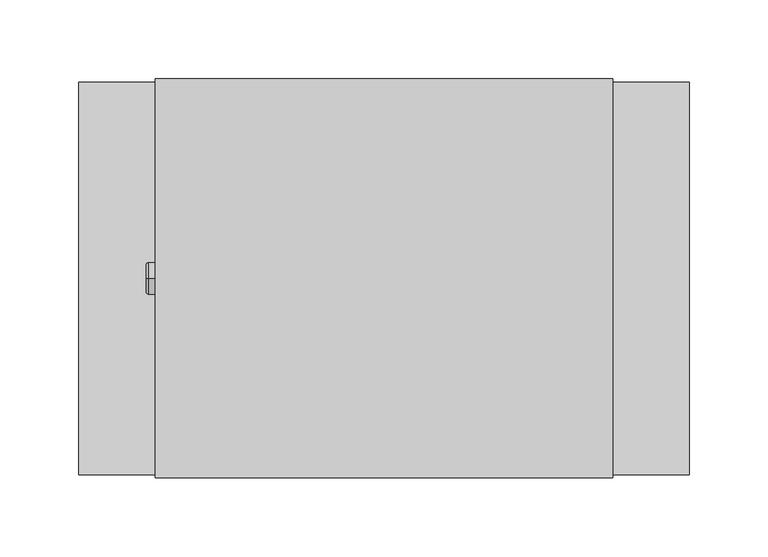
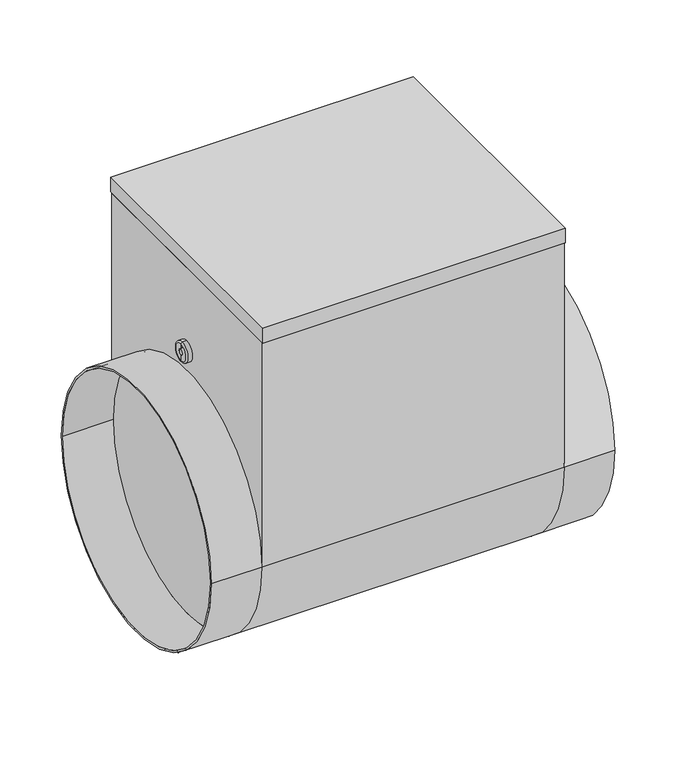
"""IFC4 building model written with IfcOpenShell, lengths in millimetres: proxy geometry, СВ_ВоздухонагревательЭлектрический_КанальныйКруглый_DN100-315_SKH-E : SKH-E-250/9."""

from ifc_helpers import new_model, si_unit, point, frame, origin, place, context, project, spatial, polyline, circle_curve, ellipse_curve, trimmed, outline, extrude, source, transform, mapped, element, save
from ifc_brep_helpers import plane_surface, cylinder_surface, revolved_surface, advanced_brep


def mechanical_equipment_79761c90(model_context):
    return source(origin(), model_context, "Body", "SolidModel", [
        extrude(outline(polyline([(145.0, -126.5), (-145.0, -126.5), (-145.0, 126.5), (145.0, 126.5), (145.0, -126.5)])), frame((0.0, 0.0, 228.5), z_axis=(0.0, 0.0, 1.0), x_axis=(1.0, 0.0, 0.0)), (0.0, 0.0, 1.0), 15.0),
        advanced_brep(
        [(-193.5, -124.5, 0.0), (-193.5, 124.5, 0.0), (-193.5, -122.5, 0.0), (-193.5, 122.5, 0.0), (-145.0, 122.5, 0.0), (-145.0, -122.5, 0.0), (-145.0, 124.5, 0.0), (-145.0, -124.5, 0.0), (145.0, -122.5, 0.0), (145.0, 122.5, 0.0), (145.0, -124.5, 228.5), (145.0, -124.5, 0.0), (145.0, 124.5, 0.0), (145.0, 124.5, 228.5), (-145.0, -124.5, 228.5), (-145.0, 124.5, 228.5), (193.5, -124.5, 0.0), (193.5, 124.5, 0.0), (193.5, -122.5, 0.0), (193.5, 122.5, 0.0)],
        [
            (0, 1, circle_curve(frame((-193.5, 0.0, 0.0), z_axis=(-1.0, 0.0, 0.0), x_axis=(0.0, 1.0, 0.0)), 124.5)),
            (1, 0, circle_curve(frame((-193.5, 0.0, 0.0), z_axis=(-1.0, 0.0, 0.0), x_axis=(0.0, 1.0, 0.0)), 124.5)),
            (2, 3, circle_curve(frame((-193.5, 0.0, 0.0), z_axis=(1.0, 0.0, 0.0), x_axis=(0.0, 1.0, 0.0)), 122.5)),
            (3, 2, circle_curve(frame((-193.5, 0.0, 0.0), z_axis=(1.0, 0.0, 0.0), x_axis=(0.0, 1.0, 0.0)), 122.5)),
            (3, 4),
            (4, 5, circle_curve(frame((-145.0, 0.0, 0.0), z_axis=(1.0, 0.0, 0.0), x_axis=(0.0, 1.0, 0.0)), 122.5)),
            (5, 2),
            (5, 4, circle_curve(frame((-145.0, 0.0, 0.0), z_axis=(1.0, 0.0, 0.0), x_axis=(0.0, 1.0, 0.0)), 122.5)),
            (1, 6),
            (6, 7, circle_curve(frame((-145.0, 0.0, 0.0), z_axis=(-1.0, 0.0, 0.0), x_axis=(0.0, 1.0, 0.0)), 124.5)),
            (7, 0),
            (7, 6, circle_curve(frame((-145.0, 0.0, 0.0), z_axis=(-1.0, 0.0, 0.0), x_axis=(0.0, 1.0, 0.0)), 124.5)),
            (8, 9, circle_curve(frame((145.0, 0.0, 0.0), z_axis=(1.0, 0.0, 0.0), x_axis=(0.0, 1.0, 0.0)), 122.5)),
            (9, 8, circle_curve(frame((145.0, 0.0, 0.0), z_axis=(1.0, 0.0, 0.0), x_axis=(0.0, 1.0, 0.0)), 122.5)),
            (10, 11),
            (11, 12, circle_curve(frame((145.0, 0.0, 0.0), z_axis=(-1.0, 0.0, 0.0), x_axis=(0.0, 1.0, 0.0)), 124.5)),
            (12, 13),
            (13, 10),
            (7, 14),
            (14, 15),
            (15, 6),
            (6, 12),
            (12, 11, circle_curve(frame((145.0, 0.0, 0.0), z_axis=(-1.0, 0.0, 0.0), x_axis=(0.0, 1.0, 0.0)), 124.5)),
            (11, 7),
            (16, 17, circle_curve(frame((193.5, 0.0, 0.0), z_axis=(1.0, 0.0, 0.0), x_axis=(0.0, 1.0, 0.0)), 124.5)),
            (17, 16, circle_curve(frame((193.5, 0.0, 0.0), z_axis=(1.0, 0.0, 0.0), x_axis=(0.0, 1.0, 0.0)), 124.5)),
            (18, 19, circle_curve(frame((193.5, 0.0, 0.0), z_axis=(-1.0, 0.0, 0.0), x_axis=(0.0, 1.0, 0.0)), 122.5)),
            (19, 18, circle_curve(frame((193.5, 0.0, 0.0), z_axis=(-1.0, 0.0, 0.0), x_axis=(0.0, 1.0, 0.0)), 122.5)),
            (18, 8),
            (9, 19),
            (16, 11),
            (12, 17),
            (10, 14),
            (15, 13),
        ],
        [
            plane_surface(frame((-193.5, 122.5, 0.0), z_axis=(-1.0, 0.0, 0.0), x_axis=(0.0, 0.0, 1.0))),
            revolved_surface(polyline([(-193.5, 122.5, 0.0), (-145.0, 122.5, 0.0)]), (-193.5, 0.0, 0.0), (-1.0, 0.0, 0.0)),
            cylinder_surface(frame((0.0, 0.0, 0.0), z_axis=(1.0, 0.0, 0.0), x_axis=(0.0, 1.0, 0.0)), 124.5),
            plane_surface(frame((145.0, 124.5, 0.0), z_axis=(1.0, 0.0, 0.0), x_axis=(0.0, -1.0, 0.0))),
            plane_surface(frame((-145.0, 124.5, 0.0), z_axis=(-1.0, 0.0, 0.0), x_axis=(0.0, 1.0, 0.0))),
            cylinder_surface(frame((-145.0, 0.0, 0.0), z_axis=(1.0, 0.0, 0.0), x_axis=(0.0, 1.0, 0.0)), 124.5),
            plane_surface(frame((193.5, 122.5, 0.0), z_axis=(1.0, 0.0, 0.0), x_axis=(0.0, 0.0, -1.0))),
            revolved_surface(polyline([(145.0, 122.5, 0.0), (193.5, 122.5, 0.0)]), (145.0, 0.0, 0.0), (-1.0, 0.0, 0.0)),
            plane_surface(frame((-145.0, -124.5, 228.5), z_axis=(0.0, -1.0, 0.0), x_axis=(-1.0, 0.0, 0.0))),
            plane_surface(frame((-145.0, 124.5, 228.5), z_axis=(0.0, 1.0, 0.0), x_axis=(1.0, 0.0, 0.0))),
            plane_surface(frame((145.0, -124.5, 228.5), z_axis=(0.0, 0.0, 1.0), x_axis=(0.0, 1.0, 0.0))),
        ],
        [
            (0, [[1, 2], [3, 4]]),
            (1, [[-4, 5, 6, 7]]),
            (1, [[-3, -7, 8, -5]]),
            (2, [[-2, 9, 10, 11]]),
            (2, [[-1, -11, 12, -9]]),
            (3, [[13, 14]]),
            (3, [[15, 16, 17, 18]]),
            (4, [[-8, -6]]),
            (4, [[19, 20, 21, -12]]),
            (5, [[-10, 22, 23, 24]]),
            (6, [[25, 26], [27, 28]]),
            (7, [[-27, 29, -14, 30]]),
            (7, [[-28, -30, -13, -29]]),
            (2, [[-25, 31, -23, 32]]),
            (2, [[-26, -32, -16, -31]]),
            (8, [[33, -19, -24, -15]]),
            (9, [[-17, -22, -21, 34]]),
            (10, [[-33, -18, -34, -20]]),
        ],
    ),
        advanced_brep(
        [(-149.2840134, 0.0, 134.5), (-149.2840134, 0.0, 154.5), (-145.0, 0.0, 154.5), (-145.0, 0.0, 134.5), (-150.7459771, 0.0, 135.9619637), (-150.7459771, 0.0, 153.0380363), (-150.7459771, 0.0, 141.3948071), (-150.7459771, 0.0, 147.6051929), (-148.4138357, 0.0, 141.3948071), (-148.4138357, 0.0, 147.6051929), (-148.4138357, 0.0, 144.5), (-145.0, 0.0, 144.5)],
        [
            (0, 1, circle_curve(frame((-149.2840134, 0.0, 144.5), z_axis=(1.0, 0.0, 0.0), x_axis=(0.0, 0.0, 1.0)), 10.0)),
            (1, 2),
            (2, 3, circle_curve(frame((-145.0, 0.0, 144.5), z_axis=(-1.0, 0.0, 0.0), x_axis=(0.0, 0.0, 1.0)), 10.0)),
            (3, 0),
            (1, 0, circle_curve(frame((-149.2840134, 0.0, 144.5), z_axis=(1.0, 0.0, 0.0), x_axis=(0.0, 0.0, 1.0)), 10.0)),
            (3, 2, circle_curve(frame((-145.0, 0.0, 144.5), z_axis=(-1.0, 0.0, 0.0), x_axis=(0.0, 0.0, 1.0)), 10.0)),
            (4, 5, circle_curve(frame((-150.7459771, 0.0, 144.5), z_axis=(1.0, 0.0, 0.0), x_axis=(0.0, 0.0, 1.0)), 8.5380363)),
            (5, 1, circle_curve(frame((-149.2840134, 0.0, 153.0380363), z_axis=(0.0, 1.0, 0.0), x_axis=(1.0, 0.0, 0.0)), 1.4619637)),
            (0, 4, circle_curve(frame((-149.2840134, 0.0, 135.9619637), z_axis=(0.0, 1.0, 0.0), x_axis=(1.0, 0.0, 0.0)), 1.4619637)),
            (5, 4, circle_curve(frame((-150.7459771, 0.0, 144.5), z_axis=(1.0, 0.0, 0.0), x_axis=(0.0, 0.0, 1.0)), 8.5380363)),
            (6, 7, circle_curve(frame((-150.7459771, 0.0, 144.5), z_axis=(1.0, 0.0, 0.0), x_axis=(0.0, 0.0, 1.0)), 3.1051929)),
            (7, 5),
            (4, 6),
            (7, 6, circle_curve(frame((-150.7459771, 0.0, 144.5), z_axis=(1.0, 0.0, 0.0), x_axis=(0.0, 0.0, 1.0)), 3.1051929)),
            (8, 9, circle_curve(frame((-148.4138357, 0.0, 144.5), z_axis=(1.0, 0.0, 0.0), x_axis=(0.0, 0.0, 1.0)), 3.1051929)),
            (9, 7),
            (6, 8),
            (9, 8, circle_curve(frame((-148.4138357, 0.0, 144.5), z_axis=(1.0, 0.0, 0.0), x_axis=(0.0, 0.0, 1.0)), 3.1051929)),
            (10, 9),
            (8, 10),
            (2, 11),
            (11, 3),
        ],
        [
            cylinder_surface(frame((-180.6635229, 0.0, 144.5), z_axis=(-1.0, 0.0, 0.0), x_axis=(0.0, 0.0, 1.0)), 10.0),
            revolved_surface(trimmed(ellipse_curve(frame((-149.2840134, 0.0, 153.0380363), z_axis=(0.0, -1.0, 0.0), x_axis=(1.0, 0.0, 0.0)), 1.4619637, 1.4619637), [point((-149.2840134, 0.0, 154.5))], [point((-150.7459771, 0.0, 153.0380363))], True, "CARTESIAN"), (-180.6635229, 0.0, 144.5), (-1.0, 0.0, 0.0)),
            plane_surface(frame((-150.7459771, 0.0, 144.5), z_axis=(-1.0, 0.0, 0.0), x_axis=(0.0, 0.0, 1.0))),
            revolved_surface(polyline([(-150.7459771, 0.0, 147.6051929), (-148.4138357, 0.0, 147.6051929)]), (-180.6635229, 0.0, 144.5), (-1.0, 0.0, 0.0)),
            plane_surface(frame((-148.4138357, 0.0, 144.5), z_axis=(-1.0, 0.0, 0.0), x_axis=(0.0, 0.0, 1.0))),
            plane_surface(frame((-145.0, 0.0, 144.5), z_axis=(1.0, 0.0, 0.0), x_axis=(0.0, 0.0, 1.0))),
        ],
        [
            (0, [[1, 2, 3, 4]]),
            (0, [[5, -4, 6, -2]]),
            (1, [[7, 8, -1, 9]]),
            (1, [[10, -9, -5, -8]]),
            (2, [[11, 12, -7, 13]]),
            (2, [[14, -13, -10, -12]]),
            (3, [[15, 16, -11, 17]]),
            (3, [[18, -17, -14, -16]]),
            (4, [[19, -15, 20]]),
            (4, [[-20, -18, -19]]),
            (5, [[-3, 21, 22]]),
            (5, [[-6, -22, -21]]),
        ],
    ),
    ])


if __name__ == "__main__":
    model = new_model("IFC4")
    model_context = context("Model", 3, world=origin())
    ifc_project = project(units=[si_unit("LENGTHUNIT", "METRE", prefix="MILLI")], contexts=[model_context])
    site = spatial("IfcSite", under=ifc_project)
    building = spatial("IfcBuilding", under=site)
    placement = place(None, origin())
    mechanical_equipment_shape = mechanical_equipment_79761c90(model_context)
    element("IfcBuildingElementProxy", 1, Name="СВ_ВоздухонагревательЭлектрический_КанальныйКруглый_DN100-315_SKH-E : SKH-E-250/9", ObjectType="СВ_ВоздухонагревательЭлектрический_КанальныйКруглый_DN100-315_SKH-E : SKH-E-250/9", at=placement, inside=building, context=model_context, shape_type="MappedRepresentation", body=[
        mapped(mechanical_equipment_shape, transform((0.0, 0.0, 0.0), x_axis=(1.0, 0.0, 0.0), y_axis=(0.0, 1.0, 0.0), z_axis=(0.0, 0.0, 1.0))),
    ])
    save(model, "model.ifc")
